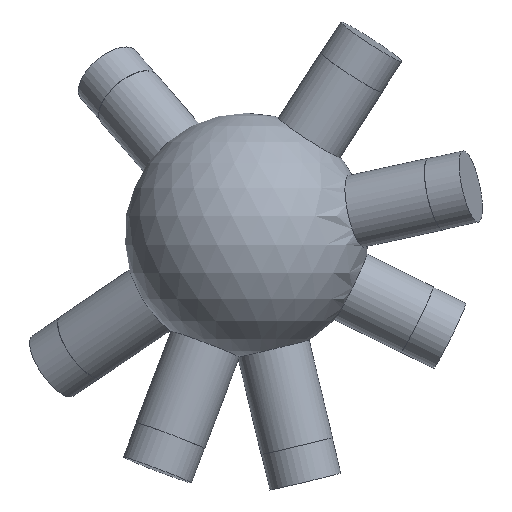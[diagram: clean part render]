
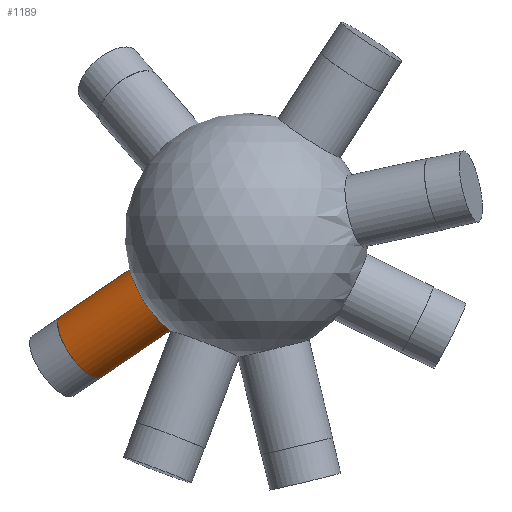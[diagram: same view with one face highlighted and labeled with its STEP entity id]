
A CAD part, left-side view. The second image highlights one B-rep face of the part: STEP entity #1189.
In plain terms, the highlighted cylindrical face has radius 6 mm (diameter 12 mm), a full revolution.
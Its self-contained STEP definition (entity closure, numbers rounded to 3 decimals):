
#33 = SPHERICAL_SURFACE('',#34,20.);
#34 = AXIS2_PLACEMENT_3D('',#35,#36,#37);
#35 = CARTESIAN_POINT('',(0.,0.,0.));
#36 = DIRECTION('',(0.,0.,1.));
#37 = DIRECTION('',(1.,0.,-0.));
#498 = EDGE_CURVE('',#499,#499,#501,.T.);
#499 = VERTEX_POINT('',#500);
#500 = CARTESIAN_POINT('',(7.036,18.054,-4.955
    ));
#501 = SURFACE_CURVE('',#502,(#507,#583),.PCURVE_S1.);
#502 = CIRCLE('',#503,6.);
#503 = AXIS2_PLACEMENT_3D('',#504,#505,#506);
#504 = CARTESIAN_POINT('',(7.036,14.695,-9.927
    ));
#505 = DIRECTION('',(0.369,0.77,-0.52));
#506 = DIRECTION('',(0.,0.56,0.829));
#507 = PCURVE('',#33,#508);
#508 = DEFINITIONAL_REPRESENTATION('',(#509),#582);
#509 = B_SPLINE_CURVE_WITH_KNOTS('',8,(#510,#511,#512,#513,#514,#515,
    #516,#517,#518,#519,#520,#521,#522,#523,#524,#525,#526,#527,#528,
    #529,#530,#531,#532,#533,#534,#535,#536,#537,#538,#539,#540,#541,
    #542,#543,#544,#545,#546,#547,#548,#549,#550,#551,#552,#553,#554,
    #555,#556,#557,#558,#559,#560,#561,#562,#563,#564,#565,#566,#567,
    #568,#569,#570,#571,#572,#573,#574,#575,#576,#577,#578,#579,#580,
    #581),.UNSPECIFIED.,.F.,.F.,(9,7,7,7,7,7,7,7,7,7,9),(0.,
    0.785,1.473,2.074,2.6,
    3.06,3.463,4.168,4.697,
    5.49,6.283),.UNSPECIFIED.);
#510 = CARTESIAN_POINT('',(1.199,-0.25));
#511 = CARTESIAN_POINT('',(1.169,-0.244));
#512 = CARTESIAN_POINT('',(1.139,-0.241));
#513 = CARTESIAN_POINT('',(1.109,-0.24));
#514 = CARTESIAN_POINT('',(1.078,-0.243));
#515 = CARTESIAN_POINT('',(1.048,-0.248));
#516 = CARTESIAN_POINT('',(1.018,-0.256));
#517 = CARTESIAN_POINT('',(0.99,-0.267));
#518 = CARTESIAN_POINT('',(0.939,-0.292));
#519 = CARTESIAN_POINT('',(0.916,-0.306));
#520 = CARTESIAN_POINT('',(0.894,-0.322));
#521 = CARTESIAN_POINT('',(0.874,-0.339));
#522 = CARTESIAN_POINT('',(0.855,-0.358));
#523 = CARTESIAN_POINT('',(0.838,-0.378));
#524 = CARTESIAN_POINT('',(0.822,-0.4));
#525 = CARTESIAN_POINT('',(0.798,-0.443));
#526 = CARTESIAN_POINT('',(0.787,-0.463));
#527 = CARTESIAN_POINT('',(0.779,-0.485));
#528 = CARTESIAN_POINT('',(0.772,-0.507));
#529 = CARTESIAN_POINT('',(0.768,-0.529));
#530 = CARTESIAN_POINT('',(0.765,-0.552));
#531 = CARTESIAN_POINT('',(0.764,-0.574));
#532 = CARTESIAN_POINT('',(0.768,-0.616));
#533 = CARTESIAN_POINT('',(0.771,-0.636));
#534 = CARTESIAN_POINT('',(0.776,-0.655));
#535 = CARTESIAN_POINT('',(0.783,-0.674));
#536 = CARTESIAN_POINT('',(0.792,-0.693));
#537 = CARTESIAN_POINT('',(0.803,-0.711));
#538 = CARTESIAN_POINT('',(0.816,-0.728));
#539 = CARTESIAN_POINT('',(0.845,-0.758));
#540 = CARTESIAN_POINT('',(0.86,-0.772));
#541 = CARTESIAN_POINT('',(0.877,-0.785));
#542 = CARTESIAN_POINT('',(0.895,-0.796));
#543 = CARTESIAN_POINT('',(0.915,-0.807));
#544 = CARTESIAN_POINT('',(0.936,-0.816));
#545 = CARTESIAN_POINT('',(0.958,-0.825));
#546 = CARTESIAN_POINT('',(1.002,-0.838));
#547 = CARTESIAN_POINT('',(1.023,-0.843));
#548 = CARTESIAN_POINT('',(1.045,-0.847));
#549 = CARTESIAN_POINT('',(1.068,-0.85));
#550 = CARTESIAN_POINT('',(1.091,-0.852));
#551 = CARTESIAN_POINT('',(1.114,-0.853));
#552 = CARTESIAN_POINT('',(1.137,-0.852));
#553 = CARTESIAN_POINT('',(1.199,-0.848));
#554 = CARTESIAN_POINT('',(1.239,-0.842));
#555 = CARTESIAN_POINT('',(1.276,-0.833));
#556 = CARTESIAN_POINT('',(1.311,-0.82));
#557 = CARTESIAN_POINT('',(1.343,-0.805));
#558 = CARTESIAN_POINT('',(1.371,-0.787));
#559 = CARTESIAN_POINT('',(1.396,-0.767));
#560 = CARTESIAN_POINT('',(1.432,-0.729));
#561 = CARTESIAN_POINT('',(1.445,-0.712));
#562 = CARTESIAN_POINT('',(1.456,-0.694));
#563 = CARTESIAN_POINT('',(1.465,-0.675));
#564 = CARTESIAN_POINT('',(1.472,-0.656));
#565 = CARTESIAN_POINT('',(1.478,-0.636));
#566 = CARTESIAN_POINT('',(1.481,-0.617));
#567 = CARTESIAN_POINT('',(1.485,-0.567));
#568 = CARTESIAN_POINT('',(1.483,-0.537));
#569 = CARTESIAN_POINT('',(1.478,-0.508));
#570 = CARTESIAN_POINT('',(1.469,-0.479));
#571 = CARTESIAN_POINT('',(1.457,-0.45));
#572 = CARTESIAN_POINT('',(1.442,-0.424));
#573 = CARTESIAN_POINT('',(1.425,-0.398));
#574 = CARTESIAN_POINT('',(1.386,-0.351));
#575 = CARTESIAN_POINT('',(1.364,-0.33));
#576 = CARTESIAN_POINT('',(1.34,-0.31));
#577 = CARTESIAN_POINT('',(1.314,-0.293));
#578 = CARTESIAN_POINT('',(1.287,-0.278));
#579 = CARTESIAN_POINT('',(1.259,-0.266));
#580 = CARTESIAN_POINT('',(1.229,-0.257));
#581 = CARTESIAN_POINT('',(1.199,-0.25));
#582 = ( GEOMETRIC_REPRESENTATION_CONTEXT(2) 
PARAMETRIC_REPRESENTATION_CONTEXT() REPRESENTATION_CONTEXT('2D SPACE',''
  ) );
#583 = PCURVE('',#584,#589);
#584 = CYLINDRICAL_SURFACE('',#585,6.);
#585 = AXIS2_PLACEMENT_3D('',#586,#587,#588);
#586 = CARTESIAN_POINT('',(0.,0.,0.));
#587 = DIRECTION('',(0.369,0.77,-0.52));
#588 = DIRECTION('',(0.,0.56,0.829));
#589 = DEFINITIONAL_REPRESENTATION('',(#590),#594);
#590 = LINE('',#591,#592);
#591 = CARTESIAN_POINT('',(0.,19.079));
#592 = VECTOR('',#593,1.);
#593 = DIRECTION('',(1.,0.));
#594 = ( GEOMETRIC_REPRESENTATION_CONTEXT(2) 
PARAMETRIC_REPRESENTATION_CONTEXT() REPRESENTATION_CONTEXT('2D SPACE',''
  ) );
#1189 = ADVANCED_FACE('',(#1190),#584,.T.);
#1190 = FACE_BOUND('',#1191,.T.);
#1191 = EDGE_LOOP('',(#1192,#1215,#1242,#1243));
#1192 = ORIENTED_EDGE('',*,*,#1193,.T.);
#1193 = EDGE_CURVE('',#499,#1194,#1196,.T.);
#1194 = VERTEX_POINT('',#1195);
#1195 = CARTESIAN_POINT('',(12.967,30.44,
    -13.323));
#1196 = SEAM_CURVE('',#1197,(#1201,#1208),.PCURVE_S1.);
#1197 = LINE('',#1198,#1199);
#1198 = CARTESIAN_POINT('',(0.,3.359,
    4.972));
#1199 = VECTOR('',#1200,1.);
#1200 = DIRECTION('',(0.369,0.77,-0.52));
#1201 = PCURVE('',#584,#1202);
#1202 = DEFINITIONAL_REPRESENTATION('',(#1203),#1207);
#1203 = LINE('',#1204,#1205);
#1204 = CARTESIAN_POINT('',(6.283,-0.));
#1205 = VECTOR('',#1206,1.);
#1206 = DIRECTION('',(0.,1.));
#1207 = ( GEOMETRIC_REPRESENTATION_CONTEXT(2) 
PARAMETRIC_REPRESENTATION_CONTEXT() REPRESENTATION_CONTEXT('2D SPACE',''
  ) );
#1208 = PCURVE('',#584,#1209);
#1209 = DEFINITIONAL_REPRESENTATION('',(#1210),#1214);
#1210 = LINE('',#1211,#1212);
#1211 = CARTESIAN_POINT('',(0.,-0.));
#1212 = VECTOR('',#1213,1.);
#1213 = DIRECTION('',(0.,1.));
#1214 = ( GEOMETRIC_REPRESENTATION_CONTEXT(2) 
PARAMETRIC_REPRESENTATION_CONTEXT() REPRESENTATION_CONTEXT('2D SPACE',''
  ) );
#1215 = ORIENTED_EDGE('',*,*,#1216,.F.);
#1216 = EDGE_CURVE('',#1194,#1194,#1217,.T.);
#1217 = SURFACE_CURVE('',#1218,(#1223,#1230),.PCURVE_S1.);
#1218 = CIRCLE('',#1219,6.);
#1219 = AXIS2_PLACEMENT_3D('',#1220,#1221,#1222);
#1220 = CARTESIAN_POINT('',(12.967,27.081,
    -18.295));
#1221 = DIRECTION('',(0.369,0.77,-0.52));
#1222 = DIRECTION('',(0.,0.56,0.829)
  );
#1223 = PCURVE('',#584,#1224);
#1224 = DEFINITIONAL_REPRESENTATION('',(#1225),#1229);
#1225 = LINE('',#1226,#1227);
#1226 = CARTESIAN_POINT('',(0.,35.16));
#1227 = VECTOR('',#1228,1.);
#1228 = DIRECTION('',(1.,0.));
#1229 = ( GEOMETRIC_REPRESENTATION_CONTEXT(2) 
PARAMETRIC_REPRESENTATION_CONTEXT() REPRESENTATION_CONTEXT('2D SPACE',''
  ) );
#1230 = PCURVE('',#1231,#1236);
#1231 = PLANE('',#1232);
#1232 = AXIS2_PLACEMENT_3D('',#1233,#1234,#1235);
#1233 = CARTESIAN_POINT('',(12.967,27.081,
    -18.295));
#1234 = DIRECTION('',(0.369,0.77,-0.52));
#1235 = DIRECTION('',(0.,0.56,0.829));
#1236 = DEFINITIONAL_REPRESENTATION('',(#1237),#1241);
#1237 = CIRCLE('',#1238,6.);
#1238 = AXIS2_PLACEMENT_2D('',#1239,#1240);
#1239 = CARTESIAN_POINT('',(0.,0.));
#1240 = DIRECTION('',(1.,0.));
#1241 = ( GEOMETRIC_REPRESENTATION_CONTEXT(2) 
PARAMETRIC_REPRESENTATION_CONTEXT() REPRESENTATION_CONTEXT('2D SPACE',''
  ) );
#1242 = ORIENTED_EDGE('',*,*,#1193,.F.);
#1243 = ORIENTED_EDGE('',*,*,#498,.T.);
